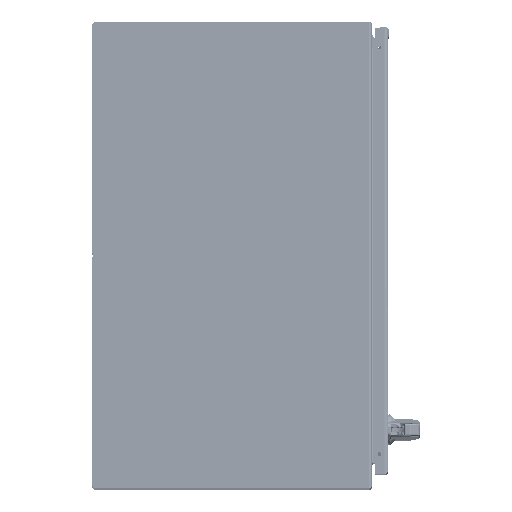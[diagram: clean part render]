
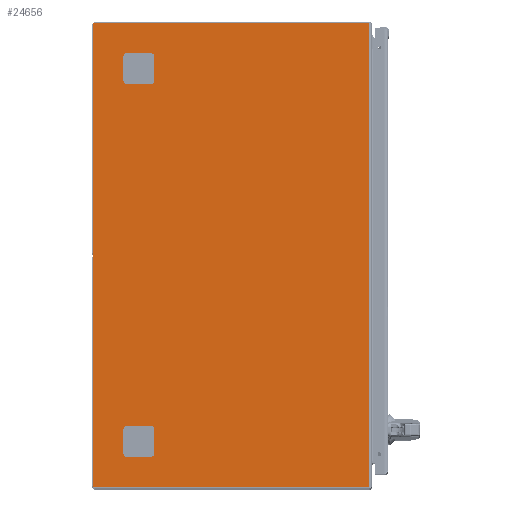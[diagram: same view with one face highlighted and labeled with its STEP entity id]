
A CAD part, top view. The second image highlights one B-rep face of the part: STEP entity #24656.
In plain terms, the highlighted planar face has unit normal (0, 0, 1) as drawn and (0, 1, 0) by its records, which use the part's own axes.
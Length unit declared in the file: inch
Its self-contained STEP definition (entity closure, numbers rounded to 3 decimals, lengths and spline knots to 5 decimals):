
#23415=CARTESIAN_POINT('',(-17.888,0.,-14.888));
#23416=DIRECTION('',(0.,1.,0.));
#23417=DIRECTION('',(0.,0.,-1.));
#23418=AXIS2_PLACEMENT_3D('',#23415,#23416,#23417);
#23423=CARTESIAN_POINT('',(-17.888,0.,14.888));
#23424=DIRECTION('',(0.,1.,0.));
#23425=DIRECTION('',(-1.,0.,0.));
#23426=AXIS2_PLACEMENT_3D('',#23423,#23424,#23425);
#23431=DIRECTION('',(0.,0.,1.));
#23432=VECTOR('',#23431,1.5);
#23433=CARTESIAN_POINT('',(-14.,0.,-12.75));
#23434=LINE('',#23433,#23432);
#23438=CARTESIAN_POINT('',(-14.25,0.,-12.75));
#23439=DIRECTION('',(0.,1.,0.));
#23440=DIRECTION('',(1.,0.,0.));
#23441=AXIS2_PLACEMENT_3D('',#23438,#23439,#23440);
#23446=DIRECTION('',(1.,0.,0.));
#23447=VECTOR('',#23446,1.5);
#23448=CARTESIAN_POINT('',(-15.75,0.,-13.));
#23449=LINE('',#23448,#23447);
#23453=CARTESIAN_POINT('',(-15.75,0.,-12.75));
#23454=DIRECTION('',(0.,1.,0.));
#23455=DIRECTION('',(0.,0.,-1.));
#23456=AXIS2_PLACEMENT_3D('',#23453,#23454,#23455);
#23461=DIRECTION('',(0.,0.,-1.));
#23462=VECTOR('',#23461,1.5);
#23463=CARTESIAN_POINT('',(-16.,0.,-11.25));
#23464=LINE('',#23463,#23462);
#23468=CARTESIAN_POINT('',(-15.75,0.,-11.25));
#23469=DIRECTION('',(0.,1.,0.));
#23470=DIRECTION('',(-1.,0.,0.));
#23471=AXIS2_PLACEMENT_3D('',#23468,#23469,#23470);
#23476=DIRECTION('',(-1.,0.,0.));
#23477=VECTOR('',#23476,1.5);
#23478=CARTESIAN_POINT('',(-14.25,0.,-11.));
#23479=LINE('',#23478,#23477);
#23483=CARTESIAN_POINT('',(-14.25,0.,-11.25));
#23484=DIRECTION('',(0.,1.,0.));
#23485=DIRECTION('',(0.,0.,1.));
#23486=AXIS2_PLACEMENT_3D('',#23483,#23484,#23485);
#23491=DIRECTION('',(0.,0.,1.));
#23492=VECTOR('',#23491,1.5);
#23493=CARTESIAN_POINT('',(-14.,0.,11.25));
#23494=LINE('',#23493,#23492);
#23498=CARTESIAN_POINT('',(-14.25,0.,11.25));
#23499=DIRECTION('',(0.,1.,0.));
#23500=DIRECTION('',(1.,0.,0.));
#23501=AXIS2_PLACEMENT_3D('',#23498,#23499,#23500);
#23506=DIRECTION('',(1.,0.,0.));
#23507=VECTOR('',#23506,1.5);
#23508=CARTESIAN_POINT('',(-15.75,0.,11.));
#23509=LINE('',#23508,#23507);
#23513=CARTESIAN_POINT('',(-15.75,0.,11.25));
#23514=DIRECTION('',(0.,1.,0.));
#23515=DIRECTION('',(0.,0.,-1.));
#23516=AXIS2_PLACEMENT_3D('',#23513,#23514,#23515);
#23521=DIRECTION('',(0.,0.,-1.));
#23522=VECTOR('',#23521,1.5);
#23523=CARTESIAN_POINT('',(-16.,0.,12.75));
#23524=LINE('',#23523,#23522);
#23528=CARTESIAN_POINT('',(-15.75,0.,12.75));
#23529=DIRECTION('',(0.,1.,0.));
#23530=DIRECTION('',(-1.,0.,0.));
#23531=AXIS2_PLACEMENT_3D('',#23528,#23529,#23530);
#23536=DIRECTION('',(-1.,0.,0.));
#23537=VECTOR('',#23536,1.5);
#23538=CARTESIAN_POINT('',(-14.25,0.,13.));
#23539=LINE('',#23538,#23537);
#23543=CARTESIAN_POINT('',(-14.25,0.,12.75));
#23544=DIRECTION('',(0.,1.,0.));
#23545=DIRECTION('',(0.,0.,1.));
#23546=AXIS2_PLACEMENT_3D('',#23543,#23544,#23545);
#23558=DIRECTION('',(0.,0.,-1.));
#23559=VECTOR('',#23558,29.776);
#23560=CARTESIAN_POINT('',(-17.948,0.,14.888));
#23561=LINE('',#23560,#23559);
#23586=DIRECTION('',(-1.,0.,0.));
#23587=VECTOR('',#23586,17.699);
#23588=CARTESIAN_POINT('',(-0.189,0.,14.948));
#23589=LINE('',#23588,#23587);
#23629=DIRECTION('',(0.,0.,1.));
#23630=VECTOR('',#23629,29.896);
#23631=CARTESIAN_POINT('',(-0.189,0.,-14.948));
#23632=LINE('',#23631,#23630);
#23737=DIRECTION('',(-1.,0.,0.));
#23738=VECTOR('',#23737,17.699);
#23739=CARTESIAN_POINT('',(-0.189,0.,-14.948));
#23740=LINE('',#23739,#23738);
#24441=CARTESIAN_POINT('',(-0.189,0.,14.948));
#24442=VERTEX_POINT('',#24441);
#24443=CARTESIAN_POINT('',(-0.189,0.,-14.948));
#24444=VERTEX_POINT('',#24443);
#24469=CARTESIAN_POINT('',(-17.888,0.,-14.948));
#24470=CARTESIAN_POINT('',(-17.948,0.,-14.888));
#24471=VERTEX_POINT('',#24469);
#24472=VERTEX_POINT('',#24470);
#24477=CARTESIAN_POINT('',(-17.948,0.,14.888));
#24478=CARTESIAN_POINT('',(-17.888,0.,14.948));
#24479=VERTEX_POINT('',#24477);
#24480=VERTEX_POINT('',#24478);
#24485=CARTESIAN_POINT('',(-14.,0.,-12.75));
#24486=CARTESIAN_POINT('',(-14.,0.,-11.25));
#24487=VERTEX_POINT('',#24485);
#24488=VERTEX_POINT('',#24486);
#24489=CARTESIAN_POINT('',(-14.25,0.,-11.));
#24490=VERTEX_POINT('',#24489);
#24491=CARTESIAN_POINT('',(-15.75,0.,-11.));
#24492=VERTEX_POINT('',#24491);
#24493=CARTESIAN_POINT('',(-16.,0.,-11.25));
#24494=VERTEX_POINT('',#24493);
#24495=CARTESIAN_POINT('',(-16.,0.,-12.75));
#24496=VERTEX_POINT('',#24495);
#24497=CARTESIAN_POINT('',(-15.75,0.,-13.));
#24498=VERTEX_POINT('',#24497);
#24499=CARTESIAN_POINT('',(-14.25,0.,-13.));
#24500=VERTEX_POINT('',#24499);
#24501=CARTESIAN_POINT('',(-14.,0.,11.25));
#24502=CARTESIAN_POINT('',(-14.,0.,12.75));
#24503=VERTEX_POINT('',#24501);
#24504=VERTEX_POINT('',#24502);
#24505=CARTESIAN_POINT('',(-14.25,0.,13.));
#24506=VERTEX_POINT('',#24505);
#24507=CARTESIAN_POINT('',(-15.75,0.,13.));
#24508=VERTEX_POINT('',#24507);
#24509=CARTESIAN_POINT('',(-16.,0.,12.75));
#24510=VERTEX_POINT('',#24509);
#24511=CARTESIAN_POINT('',(-16.,0.,11.25));
#24512=VERTEX_POINT('',#24511);
#24513=CARTESIAN_POINT('',(-15.75,0.,11.));
#24514=VERTEX_POINT('',#24513);
#24515=CARTESIAN_POINT('',(-14.25,0.,11.));
#24516=VERTEX_POINT('',#24515);
#24601=CARTESIAN_POINT('',(0.,0.,14.948));
#24602=DIRECTION('',(0.,1.,0.));
#24603=DIRECTION('',(-1.,0.,0.));
#24604=AXIS2_PLACEMENT_3D('',#24601,#24602,#24603);
#24605=PLANE('',#24604);
#24607=ORIENTED_EDGE('',*,*,#24606,.F.);
#24609=ORIENTED_EDGE('',*,*,#24608,.F.);
#24611=ORIENTED_EDGE('',*,*,#24610,.T.);
#24613=ORIENTED_EDGE('',*,*,#24612,.T.);
#24615=ORIENTED_EDGE('',*,*,#24614,.F.);
#24617=ORIENTED_EDGE('',*,*,#24616,.T.);
#24618=EDGE_LOOP('',(#24607,#24609,#24611,#24613,#24615,#24617));
#24619=FACE_OUTER_BOUND('',#24618,.F.);
#24621=ORIENTED_EDGE('',*,*,#24620,.F.);
#24623=ORIENTED_EDGE('',*,*,#24622,.T.);
#24625=ORIENTED_EDGE('',*,*,#24624,.F.);
#24627=ORIENTED_EDGE('',*,*,#24626,.T.);
#24629=ORIENTED_EDGE('',*,*,#24628,.F.);
#24631=ORIENTED_EDGE('',*,*,#24630,.T.);
#24633=ORIENTED_EDGE('',*,*,#24632,.F.);
#24635=ORIENTED_EDGE('',*,*,#24634,.T.);
#24636=EDGE_LOOP('',(#24621,#24623,#24625,#24627,#24629,#24631,#24633,#24635));
#24637=FACE_BOUND('',#24636,.F.);
#24639=ORIENTED_EDGE('',*,*,#24638,.F.);
#24641=ORIENTED_EDGE('',*,*,#24640,.T.);
#24643=ORIENTED_EDGE('',*,*,#24642,.F.);
#24645=ORIENTED_EDGE('',*,*,#24644,.T.);
#24647=ORIENTED_EDGE('',*,*,#24646,.F.);
#24649=ORIENTED_EDGE('',*,*,#24648,.T.);
#24651=ORIENTED_EDGE('',*,*,#24650,.F.);
#24653=ORIENTED_EDGE('',*,*,#24652,.T.);
#24654=EDGE_LOOP('',(#24639,#24641,#24643,#24645,#24647,#24649,#24651,#24653));
#24655=FACE_BOUND('',#24654,.F.);
#23419=CIRCLE('',#23418,0.06);
#23427=CIRCLE('',#23426,0.06);
#23442=CIRCLE('',#23441,0.25);
#23457=CIRCLE('',#23456,0.25);
#23472=CIRCLE('',#23471,0.25);
#23487=CIRCLE('',#23486,0.25);
#23502=CIRCLE('',#23501,0.25);
#23517=CIRCLE('',#23516,0.25);
#23532=CIRCLE('',#23531,0.25);
#23547=CIRCLE('',#23546,0.25);
#24606=EDGE_CURVE('',#24471,#24472,#23419,.T.);
#24608=EDGE_CURVE('',#24444,#24471,#23740,.T.);
#24610=EDGE_CURVE('',#24444,#24442,#23632,.T.);
#24612=EDGE_CURVE('',#24442,#24480,#23589,.T.);
#24614=EDGE_CURVE('',#24479,#24480,#23427,.T.);
#24616=EDGE_CURVE('',#24479,#24472,#23561,.T.);
#24620=EDGE_CURVE('',#24487,#24488,#23434,.T.);
#24622=EDGE_CURVE('',#24487,#24500,#23442,.T.);
#24624=EDGE_CURVE('',#24498,#24500,#23449,.T.);
#24626=EDGE_CURVE('',#24498,#24496,#23457,.T.);
#24628=EDGE_CURVE('',#24494,#24496,#23464,.T.);
#24630=EDGE_CURVE('',#24494,#24492,#23472,.T.);
#24632=EDGE_CURVE('',#24490,#24492,#23479,.T.);
#24634=EDGE_CURVE('',#24490,#24488,#23487,.T.);
#24638=EDGE_CURVE('',#24503,#24504,#23494,.T.);
#24640=EDGE_CURVE('',#24503,#24516,#23502,.T.);
#24642=EDGE_CURVE('',#24514,#24516,#23509,.T.);
#24644=EDGE_CURVE('',#24514,#24512,#23517,.T.);
#24646=EDGE_CURVE('',#24510,#24512,#23524,.T.);
#24648=EDGE_CURVE('',#24510,#24508,#23532,.T.);
#24650=EDGE_CURVE('',#24506,#24508,#23539,.T.);
#24652=EDGE_CURVE('',#24506,#24504,#23547,.T.);
#24656=ADVANCED_FACE('',(#24619,#24637,#24655),#24605,.T.);
